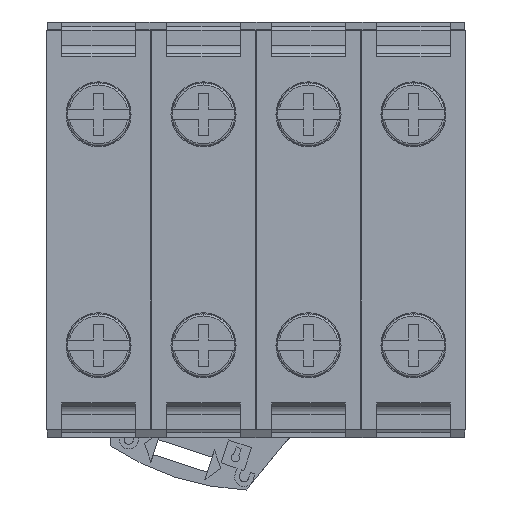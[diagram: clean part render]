
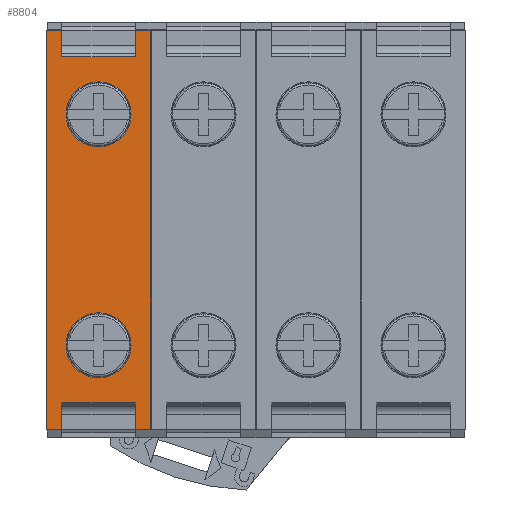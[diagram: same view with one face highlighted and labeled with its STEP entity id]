
A CAD part, front view. The second image highlights one B-rep face of the part: STEP entity #8804.
In plain terms, the highlighted planar face has unit normal (0, -1, 0).
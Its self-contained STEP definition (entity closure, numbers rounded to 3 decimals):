
#74 = DIRECTION ( 'NONE',  ( -1., 0., 0. ) ) ;
#109 = CARTESIAN_POINT ( 'NONE',  ( -19., -12.75, -4.95 ) ) ;
#297 = ORIENTED_EDGE ( 'NONE', *, *, #8492, .T. ) ;
#455 = CARTESIAN_POINT ( 'NONE',  ( 19., -12.75, 4.95 ) ) ;
#767 = CARTESIAN_POINT ( 'NONE',  ( 16.495, -12.75, 3.5 ) ) ;
#887 = DIRECTION ( 'NONE',  ( 0., 0., 1. ) ) ;
#965 = VERTEX_POINT ( 'NONE', #455 ) ;
#1170 = FACE_BOUND ( 'NONE', #3967, .T. ) ;
#1435 = CARTESIAN_POINT ( 'NONE',  ( -16.495, -12.75, -4.95 ) ) ;
#1592 = CARTESIAN_POINT ( 'NONE',  ( -19., -12.75, 3.5 ) ) ;
#1888 = VERTEX_POINT ( 'NONE', #2136 ) ;
#1937 = EDGE_CURVE ( 'NONE', #14576, #12759, #2669, .T. ) ;
#2136 = CARTESIAN_POINT ( 'NONE',  ( -14.1, -12.75, 0. ) ) ;
#2170 = EDGE_CURVE ( 'NONE', #5851, #13771, #14636, .T. ) ;
#2621 = CARTESIAN_POINT ( 'NONE',  ( 19., -12.75, -4.95 ) ) ;
#2635 = VERTEX_POINT ( 'NONE', #109 ) ;
#2667 = CARTESIAN_POINT ( 'NONE',  ( 19., -12.75, 4.95 ) ) ;
#2669 = LINE ( 'NONE', #10151, #11078 ) ;
#2746 = EDGE_CURVE ( 'NONE', #14229, #965, #14748, .T. ) ;
#2828 = VECTOR ( 'NONE', #13974, 1000. ) ;
#2923 = CIRCLE ( 'NONE', #11425, 3.1 ) ;
#3245 = CARTESIAN_POINT ( 'NONE',  ( 7.9, -12.75, 0. ) ) ;
#3291 = ORIENTED_EDGE ( 'NONE', *, *, #14606, .T. ) ;
#3321 = CARTESIAN_POINT ( 'NONE',  ( 19., -12.75, 3.5 ) ) ;
#3967 = EDGE_LOOP ( 'NONE', ( #13661, #297 ) ) ;
#3970 = EDGE_CURVE ( 'NONE', #7818, #1888, #11142, .T. ) ;
#3979 = VECTOR ( 'NONE', #4399, 1000. ) ;
#4025 = VERTEX_POINT ( 'NONE', #3245 ) ;
#4027 = EDGE_CURVE ( 'NONE', #11191, #12507, #7041, .T. ) ;
#4068 = VECTOR ( 'NONE', #12787, 1000. ) ;
#4073 = DIRECTION ( 'NONE',  ( 0., 0., -1. ) ) ;
#4099 = EDGE_LOOP ( 'NONE', ( #13550, #3291, #4779, #7581, #9262, #13772, #9789, #10634, #4688, #8955, #9431, #10650 ) ) ;
#4164 = CARTESIAN_POINT ( 'NONE',  ( -19., -12.75, 4.95 ) ) ;
#4323 = CARTESIAN_POINT ( 'NONE',  ( 16.495, -12.75, -3.5 ) ) ;
#4399 = DIRECTION ( 'NONE',  ( -1., 0., 0. ) ) ;
#4629 = VECTOR ( 'NONE', #74, 1000. ) ;
#4688 = ORIENTED_EDGE ( 'NONE', *, *, #12274, .T. ) ;
#4779 = ORIENTED_EDGE ( 'NONE', *, *, #2746, .F. ) ;
#4925 = FACE_OUTER_BOUND ( 'NONE', #4099, .T. ) ;
#5299 = LINE ( 'NONE', #12047, #14049 ) ;
#5326 = CARTESIAN_POINT ( 'NONE',  ( -7.9, -12.75, 0. ) ) ;
#5351 = VECTOR ( 'NONE', #11777, 1000. ) ;
#5377 = CARTESIAN_POINT ( 'NONE',  ( 19., -12.75, -3.5 ) ) ;
#5407 = DIRECTION ( 'NONE',  ( 0., -1., 0. ) ) ;
#5509 = CARTESIAN_POINT ( 'NONE',  ( 19., -12.75, 3.5 ) ) ;
#5549 = DIRECTION ( 'NONE',  ( 0., -1., 0. ) ) ;
#5598 = DIRECTION ( 'NONE',  ( 0., 0., 1. ) ) ;
#5675 = CARTESIAN_POINT ( 'NONE',  ( -11., -12.75, 0. ) ) ;
#5851 = VERTEX_POINT ( 'NONE', #6030 ) ;
#5860 = AXIS2_PLACEMENT_3D ( 'NONE', #7787, #5549, #13520 ) ;
#6030 = CARTESIAN_POINT ( 'NONE',  ( -16.495, -12.75, 3.5 ) ) ;
#6167 = CARTESIAN_POINT ( 'NONE',  ( 14.1, -12.75, 0. ) ) ;
#6391 = DIRECTION ( 'NONE',  ( 0., 1., 0. ) ) ;
#6449 = EDGE_CURVE ( 'NONE', #12759, #9397, #7356, .T. ) ;
#6654 = CARTESIAN_POINT ( 'NONE',  ( 11., -12.75, 0. ) ) ;
#6830 = DIRECTION ( 'NONE',  ( 1., 0., 0. ) ) ;
#7024 = CARTESIAN_POINT ( 'NONE',  ( 19., -12.75, -3.5 ) ) ;
#7041 = LINE ( 'NONE', #10111, #3979 ) ;
#7330 = VECTOR ( 'NONE', #887, 1000. ) ;
#7356 = LINE ( 'NONE', #5377, #13048 ) ;
#7443 = EDGE_CURVE ( 'NONE', #13771, #8294, #7664, .T. ) ;
#7531 = VECTOR ( 'NONE', #4073, 1000. ) ;
#7581 = ORIENTED_EDGE ( 'NONE', *, *, #8336, .F. ) ;
#7632 = VERTEX_POINT ( 'NONE', #6167 ) ;
#7664 = LINE ( 'NONE', #9204, #4629 ) ;
#7787 = CARTESIAN_POINT ( 'NONE',  ( 19., -12.75, -4.95 ) ) ;
#7793 = DIRECTION ( 'NONE',  ( -1., 0., 0. ) ) ;
#7818 = VERTEX_POINT ( 'NONE', #5326 ) ;
#8057 = LINE ( 'NONE', #11132, #7330 ) ;
#8294 = VERTEX_POINT ( 'NONE', #11951 ) ;
#8336 = EDGE_CURVE ( 'NONE', #13377, #14229, #5299, .T. ) ;
#8457 = ORIENTED_EDGE ( 'NONE', *, *, #3970, .F. ) ;
#8492 = EDGE_CURVE ( 'NONE', #4025, #7632, #12613, .T. ) ;
#8567 = EDGE_LOOP ( 'NONE', ( #8457, #9115 ) ) ;
#8643 = EDGE_CURVE ( 'NONE', #7632, #4025, #12078, .T. ) ;
#8804 = ADVANCED_FACE ( 'NONE', ( #4925, #12946, #1170 ), #10099, .T. ) ;
#8955 = ORIENTED_EDGE ( 'NONE', *, *, #1937, .T. ) ;
#9115 = ORIENTED_EDGE ( 'NONE', *, *, #9489, .F. ) ;
#9204 = CARTESIAN_POINT ( 'NONE',  ( 19., -12.75, -3.5 ) ) ;
#9262 = ORIENTED_EDGE ( 'NONE', *, *, #13046, .F. ) ;
#9342 = AXIS2_PLACEMENT_3D ( 'NONE', #12248, #5407, #13376 ) ;
#9397 = VERTEX_POINT ( 'NONE', #4323 ) ;
#9431 = ORIENTED_EDGE ( 'NONE', *, *, #6449, .T. ) ;
#9489 = EDGE_CURVE ( 'NONE', #1888, #7818, #2923, .T. ) ;
#9789 = ORIENTED_EDGE ( 'NONE', *, *, #7443, .T. ) ;
#9995 = AXIS2_PLACEMENT_3D ( 'NONE', #13217, #6391, #14371 ) ;
#10078 = AXIS2_PLACEMENT_3D ( 'NONE', #6654, #14638, #7793 ) ;
#10099 = PLANE ( 'NONE',  #5860 ) ;
#10111 = CARTESIAN_POINT ( 'NONE',  ( 19., -12.75, 3.5 ) ) ;
#10151 = CARTESIAN_POINT ( 'NONE',  ( 19., -12.75, -4.95 ) ) ;
#10247 = LINE ( 'NONE', #10924, #7531 ) ;
#10480 = CARTESIAN_POINT ( 'NONE',  ( 19., -12.75, -4.95 ) ) ;
#10634 = ORIENTED_EDGE ( 'NONE', *, *, #11963, .F. ) ;
#10650 = ORIENTED_EDGE ( 'NONE', *, *, #10963, .F. ) ;
#10672 = DIRECTION ( 'NONE',  ( 1., 0., 0. ) ) ;
#10924 = CARTESIAN_POINT ( 'NONE',  ( 16.495, -12.75, -4.95 ) ) ;
#10963 = EDGE_CURVE ( 'NONE', #12507, #9397, #10247, .T. ) ;
#11071 = DIRECTION ( 'NONE',  ( -1., 0., 0. ) ) ;
#11078 = VECTOR ( 'NONE', #5598, 1000. ) ;
#11132 = CARTESIAN_POINT ( 'NONE',  ( -19., -12.75, -4.95 ) ) ;
#11142 = CIRCLE ( 'NONE', #9342, 3.1 ) ;
#11191 = VERTEX_POINT ( 'NONE', #3321 ) ;
#11425 = AXIS2_PLACEMENT_3D ( 'NONE', #5675, #13658, #6830 ) ;
#11657 = CARTESIAN_POINT ( 'NONE',  ( 19., -12.75, -4.95 ) ) ;
#11777 = DIRECTION ( 'NONE',  ( 1., 0., 0. ) ) ;
#11788 = LINE ( 'NONE', #2621, #5351 ) ;
#11951 = CARTESIAN_POINT ( 'NONE',  ( -19., -12.75, -3.5 ) ) ;
#11963 = EDGE_CURVE ( 'NONE', #2635, #8294, #8057, .T. ) ;
#12047 = CARTESIAN_POINT ( 'NONE',  ( -19., -12.75, -4.95 ) ) ;
#12078 = CIRCLE ( 'NONE', #9995, 3.1 ) ;
#12248 = CARTESIAN_POINT ( 'NONE',  ( -11., -12.75, 0. ) ) ;
#12274 = EDGE_CURVE ( 'NONE', #2635, #14576, #11788, .T. ) ;
#12354 = DIRECTION ( 'NONE',  ( -1., 0., 0. ) ) ;
#12465 = LINE ( 'NONE', #5509, #14421 ) ;
#12507 = VERTEX_POINT ( 'NONE', #767 ) ;
#12523 = CARTESIAN_POINT ( 'NONE',  ( -16.495, -12.75, -3.5 ) ) ;
#12613 = CIRCLE ( 'NONE', #10078, 3.1 ) ;
#12759 = VERTEX_POINT ( 'NONE', #7024 ) ;
#12787 = DIRECTION ( 'NONE',  ( 0., 0., 1. ) ) ;
#12946 = FACE_BOUND ( 'NONE', #8567, .T. ) ;
#13046 = EDGE_CURVE ( 'NONE', #5851, #13377, #12465, .T. ) ;
#13048 = VECTOR ( 'NONE', #11071, 1000. ) ;
#13170 = LINE ( 'NONE', #11657, #4068 ) ;
#13172 = DIRECTION ( 'NONE',  ( 0., 0., 1. ) ) ;
#13217 = CARTESIAN_POINT ( 'NONE',  ( 11., -12.75, 0. ) ) ;
#13376 = DIRECTION ( 'NONE',  ( 1., 0., 0. ) ) ;
#13377 = VERTEX_POINT ( 'NONE', #1592 ) ;
#13520 = DIRECTION ( 'NONE',  ( 1., 0., 0. ) ) ;
#13550 = ORIENTED_EDGE ( 'NONE', *, *, #4027, .F. ) ;
#13658 = DIRECTION ( 'NONE',  ( 0., -1., 0. ) ) ;
#13661 = ORIENTED_EDGE ( 'NONE', *, *, #8643, .T. ) ;
#13771 = VERTEX_POINT ( 'NONE', #12523 ) ;
#13772 = ORIENTED_EDGE ( 'NONE', *, *, #2170, .T. ) ;
#13974 = DIRECTION ( 'NONE',  ( 0., 0., -1. ) ) ;
#14049 = VECTOR ( 'NONE', #13172, 1000. ) ;
#14229 = VERTEX_POINT ( 'NONE', #4164 ) ;
#14371 = DIRECTION ( 'NONE',  ( -1., 0., 0. ) ) ;
#14376 = VECTOR ( 'NONE', #10672, 1000. ) ;
#14421 = VECTOR ( 'NONE', #12354, 1000. ) ;
#14576 = VERTEX_POINT ( 'NONE', #10480 ) ;
#14606 = EDGE_CURVE ( 'NONE', #11191, #965, #13170, .T. ) ;
#14636 = LINE ( 'NONE', #1435, #2828 ) ;
#14638 = DIRECTION ( 'NONE',  ( 0., 1., 0. ) ) ;
#14748 = LINE ( 'NONE', #2667, #14376 ) ;
